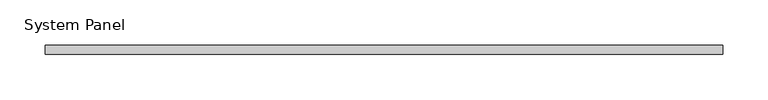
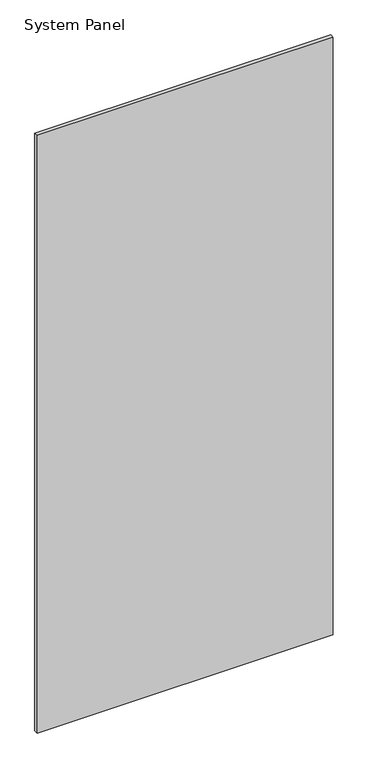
"""IFC4 building model written with IfcOpenShell, lengths in millimetres: plate geometry, System Panel : стекло_смещение_0."""

from ifc_helpers import new_model, si_unit, origin, origin_with_axes, place, context, project, spatial, polyline, outline, extrude, source, transform, mapped, element, save


def system_panel_211886f6(model_context):
    return source(origin(), model_context, "Body", "SweptSolid", [
        extrude(outline(polyline([(375.0, -5.0), (-375.0, -5.0), (-375.0, 5.0), (375.0, 5.0), (375.0, -5.0)])), origin_with_axes(), (0.0, 0.0, 1.0), 1600.0),
    ])


if __name__ == "__main__":
    model = new_model("IFC4")
    model_context = context("Model", 3, world=origin())
    ifc_project = project(units=[si_unit("LENGTHUNIT", "METRE", prefix="MILLI")], contexts=[model_context])
    site = spatial("IfcSite", under=ifc_project)
    building = spatial("IfcBuilding", under=site)
    placement = place(None, origin())
    system_panel_shape = system_panel_211886f6(model_context)
    element("IfcPlate", 1, ObjectType="System Panel : стекло_смещение_0", at=placement, inside=building, context=model_context, shape_type="MappedRepresentation", body=[
        mapped(system_panel_shape, transform((0.0, 0.0, 0.0), x_axis=(1.0, 0.0, 0.0), y_axis=(0.0, 1.0, 0.0), z_axis=(0.0, 0.0, 1.0))),
    ])
    save(model, "model.ifc")
